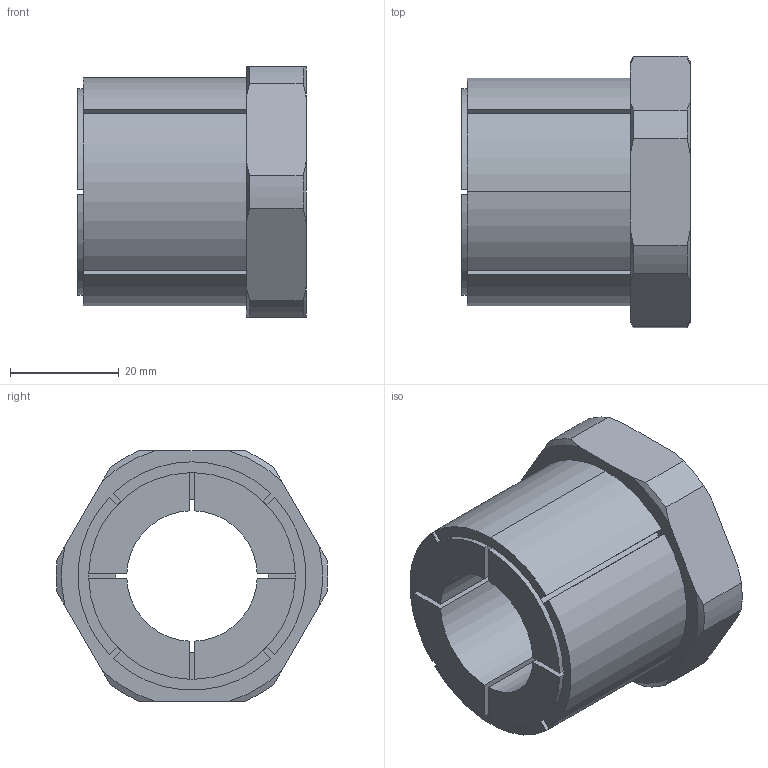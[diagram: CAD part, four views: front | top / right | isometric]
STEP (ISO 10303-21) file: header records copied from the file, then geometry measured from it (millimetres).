
FILE_DESCRIPTION (( 'STEP AP203' ), '1' );
FILE_NAME ('KBS 58 - 24 x 42.STEP', '2015-07-05T19:58:30', ( '' ), ( '' ), 'SwSTEP 2.0', 'SolidWorks 2010', '' );
FILE_SCHEMA (( 'CONFIG_CONTROL_DESIGN' ));
Length unit declared in the file: millimetre
Products named in the file (1): KBS 58 - 24 x 42
Bounding box: 42 x 49.96 x 46 mm (x, y, z)
Volume: 41976 mm3; surface area: 14368.6 mm2
Topology: 1 solids, 1 shells, 79 faces, 220 edges, 144 vertices
Faces by surface type: plane 37, cylinder 26, cone 16
Entity records: 2687 total; most frequent: CARTESIAN_POINT 564, ORIENTED_EDGE 440, DIRECTION 428, EDGE_CURVE 220, AXIS2_PLACEMENT_3D 160, VERTEX_POINT 144, VECTOR 108, LINE 108
